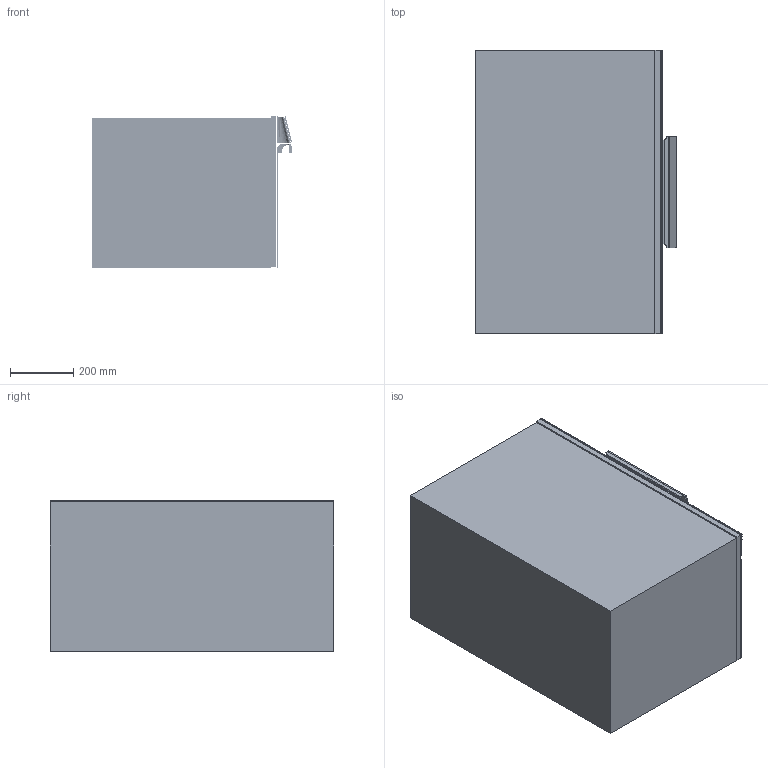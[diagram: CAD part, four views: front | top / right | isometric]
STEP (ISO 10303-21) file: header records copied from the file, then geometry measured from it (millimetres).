
FILE_DESCRIPTION(/* description */ (''),/* implementation_level */ '2;1');
FILE_NAME(/* name */ 'H6890BP_CLST',/* time_stamp */ '2013-04-20T15:35:48+02:00',/* author */ (''),/* organization */ (''),/* preprocessor_version */ 'ST-DEVELOPER v10',/* originating_system */ '',/* authorisation */ '');
FILE_SCHEMA (('AUTOMOTIVE_DESIGN_CC2'));
Length unit declared in the file: millimetre
Products named in the file (1): 1
Bounding box: 632 x 894.2 x 477.56 mm (x, y, z)
Volume: 144231447.3 mm3; surface area: 5745295.6 mm2
Topology: 39 solids, 40 shells, 189 faces, 316 edges, 208 vertices
Faces by surface type: bspline 189
Entity records: 71319 total; most frequent: CARTESIAN_POINT 68796, ORIENTED_EDGE 628, EDGE_CURVE 316, B_SPLINE_CURVE_WITH_KNOTS 223, VERTEX_POINT 208, EDGE_LOOP 193, ADVANCED_FACE 189, FACE_OUTER_BOUND 189
